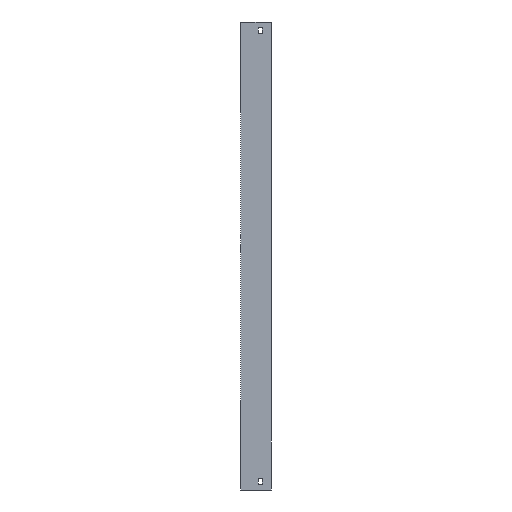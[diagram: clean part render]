
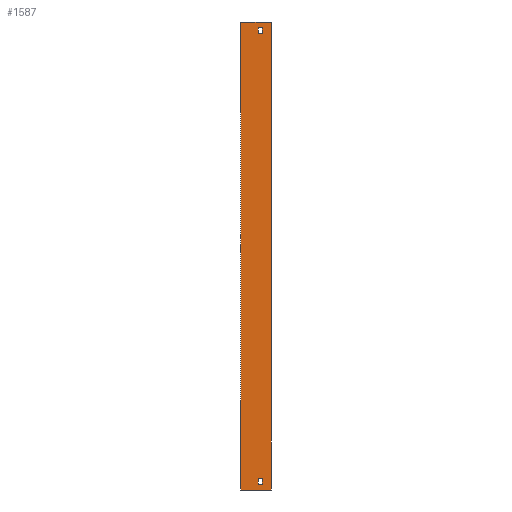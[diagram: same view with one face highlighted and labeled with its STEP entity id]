
A CAD part, left-side view. The second image highlights one B-rep face of the part: STEP entity #1587.
In plain terms, the highlighted planar face has unit normal (-1, 0, 0).
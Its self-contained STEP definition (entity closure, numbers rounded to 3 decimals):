
#15 = VERTEX_POINT ( 'NONE', #792 ) ;
#21 = CARTESIAN_POINT ( 'NONE',  ( -604., 22., -744. ) ) ;
#26 = ORIENTED_EDGE ( 'NONE', *, *, #1808, .T. ) ;
#28 = DIRECTION ( 'NONE',  ( 0., 0., -1. ) ) ;
#34 = VECTOR ( 'NONE', #734, 1000. ) ;
#40 = EDGE_CURVE ( 'NONE', #1069, #1554, #1368, .T. ) ;
#48 = ORIENTED_EDGE ( 'NONE', *, *, #1618, .F. ) ;
#83 = DIRECTION ( 'NONE',  ( 0., -1., 0. ) ) ;
#96 = AXIS2_PLACEMENT_3D ( 'NONE', #977, #1381, #1542 ) ;
#132 = VECTOR ( 'NONE', #83, 1000. ) ;
#134 = EDGE_CURVE ( 'NONE', #1317, #1685, #1616, .T. ) ;
#138 = ORIENTED_EDGE ( 'NONE', *, *, #1164, .T. ) ;
#162 = ORIENTED_EDGE ( 'NONE', *, *, #1844, .F. ) ;
#175 = LINE ( 'NONE', #963, #1269 ) ;
#179 = DIRECTION ( 'NONE',  ( 0., 0., 1. ) ) ;
#206 = VERTEX_POINT ( 'NONE', #1817 ) ;
#272 = LINE ( 'NONE', #999, #651 ) ;
#291 = ORIENTED_EDGE ( 'NONE', *, *, #1769, .F. ) ;
#301 = CARTESIAN_POINT ( 'NONE',  ( -604., 22., -744. ) ) ;
#311 = LINE ( 'NONE', #1491, #34 ) ;
#333 = EDGE_CURVE ( 'NONE', #1942, #350, #554, .T. ) ;
#334 = CARTESIAN_POINT ( 'NONE',  ( -604., 15., 40. ) ) ;
#350 = VERTEX_POINT ( 'NONE', #1725 ) ;
#375 = PLANE ( 'NONE',  #96 ) ;
#396 = VECTOR ( 'NONE', #179, 1000. ) ;
#413 = VERTEX_POINT ( 'NONE', #1285 ) ;
#415 = CARTESIAN_POINT ( 'NONE',  ( -604., 22., 40. ) ) ;
#419 = LINE ( 'NONE', #1756, #1892 ) ;
#477 = CARTESIAN_POINT ( 'NONE',  ( -604., 52., 50. ) ) ;
#498 = FACE_BOUND ( 'NONE', #672, .T. ) ;
#502 = CARTESIAN_POINT ( 'NONE',  ( -604., 22., 30. ) ) ;
#512 = FACE_OUTER_BOUND ( 'NONE', #1226, .T. ) ;
#554 = LINE ( 'NONE', #1152, #1914 ) ;
#578 = ORIENTED_EDGE ( 'NONE', *, *, #997, .F. ) ;
#614 = CARTESIAN_POINT ( 'NONE',  ( -604., 15., -744. ) ) ;
#622 = ORIENTED_EDGE ( 'NONE', *, *, #1723, .T. ) ;
#651 = VECTOR ( 'NONE', #1895, 1000. ) ;
#672 = EDGE_LOOP ( 'NONE', ( #1181, #622, #26, #138 ) ) ;
#701 = DIRECTION ( 'NONE',  ( 0., -1., 0. ) ) ;
#734 = DIRECTION ( 'NONE',  ( 0., -1., 0. ) ) ;
#792 = CARTESIAN_POINT ( 'NONE',  ( -604., 15., 30. ) ) ;
#797 = DIRECTION ( 'NONE',  ( 0., 1., 0. ) ) ;
#813 = CARTESIAN_POINT ( 'NONE',  ( -604., 22., 40. ) ) ;
#816 = ORIENTED_EDGE ( 'NONE', *, *, #1291, .T. ) ;
#835 = EDGE_LOOP ( 'NONE', ( #578, #48, #162, #1649 ) ) ;
#839 = VERTEX_POINT ( 'NONE', #614 ) ;
#853 = LINE ( 'NONE', #1434, #1609 ) ;
#909 = ORIENTED_EDGE ( 'NONE', *, *, #40, .F. ) ;
#917 = CARTESIAN_POINT ( 'NONE',  ( -604., 52., -754. ) ) ;
#963 = CARTESIAN_POINT ( 'NONE',  ( -604., 15., -744. ) ) ;
#976 = DIRECTION ( 'NONE',  ( 0., 0., 1. ) ) ;
#977 = CARTESIAN_POINT ( 'NONE',  ( -604., 52., -754. ) ) ;
#992 = DIRECTION ( 'NONE',  ( 0., -1., 0. ) ) ;
#994 = VECTOR ( 'NONE', #797, 1000. ) ;
#997 = EDGE_CURVE ( 'NONE', #1062, #839, #311, .T. ) ;
#999 = CARTESIAN_POINT ( 'NONE',  ( -604., 22., -734. ) ) ;
#1062 = VERTEX_POINT ( 'NONE', #301 ) ;
#1069 = VERTEX_POINT ( 'NONE', #1909 ) ;
#1099 = DIRECTION ( 'NONE',  ( 0., 0., 1. ) ) ;
#1152 = CARTESIAN_POINT ( 'NONE',  ( -604., 0., -754. ) ) ;
#1164 = EDGE_CURVE ( 'NONE', #15, #1317, #1511, .T. ) ;
#1181 = ORIENTED_EDGE ( 'NONE', *, *, #134, .T. ) ;
#1194 = VERTEX_POINT ( 'NONE', #334 ) ;
#1226 = EDGE_LOOP ( 'NONE', ( #1730, #291, #909, #816 ) ) ;
#1264 = EDGE_CURVE ( 'NONE', #839, #413, #175, .T. ) ;
#1269 = VECTOR ( 'NONE', #1099, 1000. ) ;
#1285 = CARTESIAN_POINT ( 'NONE',  ( -604., 15., -734. ) ) ;
#1291 = EDGE_CURVE ( 'NONE', #1069, #1942, #1804, .T. ) ;
#1317 = VERTEX_POINT ( 'NONE', #1441 ) ;
#1366 = LINE ( 'NONE', #21, #1519 ) ;
#1368 = LINE ( 'NONE', #917, #396 ) ;
#1381 = DIRECTION ( 'NONE',  ( 1., 0., 0. ) ) ;
#1434 = CARTESIAN_POINT ( 'NONE',  ( -604., 22., 40. ) ) ;
#1439 = LINE ( 'NONE', #1904, #132 ) ;
#1441 = CARTESIAN_POINT ( 'NONE',  ( -604., 22., 30. ) ) ;
#1484 = VECTOR ( 'NONE', #992, 1000. ) ;
#1491 = CARTESIAN_POINT ( 'NONE',  ( -604., 22., -744. ) ) ;
#1511 = LINE ( 'NONE', #502, #994 ) ;
#1519 = VECTOR ( 'NONE', #28, 1000. ) ;
#1542 = DIRECTION ( 'NONE',  ( 0., 0., -1. ) ) ;
#1554 = VERTEX_POINT ( 'NONE', #477 ) ;
#1573 = DIRECTION ( 'NONE',  ( 0., 0., -1. ) ) ;
#1587 = ADVANCED_FACE ( 'NONE', ( #512, #498, #1683 ), #375, .F. ) ;
#1609 = VECTOR ( 'NONE', #701, 1000. ) ;
#1616 = LINE ( 'NONE', #813, #1634 ) ;
#1618 = EDGE_CURVE ( 'NONE', #206, #1062, #1366, .T. ) ;
#1634 = VECTOR ( 'NONE', #1946, 1000. ) ;
#1649 = ORIENTED_EDGE ( 'NONE', *, *, #1264, .F. ) ;
#1660 = CARTESIAN_POINT ( 'NONE',  ( -604., 52., -754. ) ) ;
#1683 = FACE_BOUND ( 'NONE', #835, .T. ) ;
#1685 = VERTEX_POINT ( 'NONE', #415 ) ;
#1723 = EDGE_CURVE ( 'NONE', #1685, #1194, #853, .T. ) ;
#1725 = CARTESIAN_POINT ( 'NONE',  ( -604., 0., 50. ) ) ;
#1730 = ORIENTED_EDGE ( 'NONE', *, *, #333, .T. ) ;
#1756 = CARTESIAN_POINT ( 'NONE',  ( -604., 15., 40. ) ) ;
#1769 = EDGE_CURVE ( 'NONE', #1554, #350, #1439, .T. ) ;
#1794 = CARTESIAN_POINT ( 'NONE',  ( -604., 0., -754. ) ) ;
#1804 = LINE ( 'NONE', #1660, #1484 ) ;
#1808 = EDGE_CURVE ( 'NONE', #1194, #15, #419, .T. ) ;
#1817 = CARTESIAN_POINT ( 'NONE',  ( -604., 22., -734. ) ) ;
#1844 = EDGE_CURVE ( 'NONE', #413, #206, #272, .T. ) ;
#1892 = VECTOR ( 'NONE', #1573, 1000. ) ;
#1895 = DIRECTION ( 'NONE',  ( 0., 1., 0. ) ) ;
#1904 = CARTESIAN_POINT ( 'NONE',  ( -604., 52., 50. ) ) ;
#1909 = CARTESIAN_POINT ( 'NONE',  ( -604., 52., -754. ) ) ;
#1914 = VECTOR ( 'NONE', #976, 1000. ) ;
#1942 = VERTEX_POINT ( 'NONE', #1794 ) ;
#1946 = DIRECTION ( 'NONE',  ( 0., 0., 1. ) ) ;
